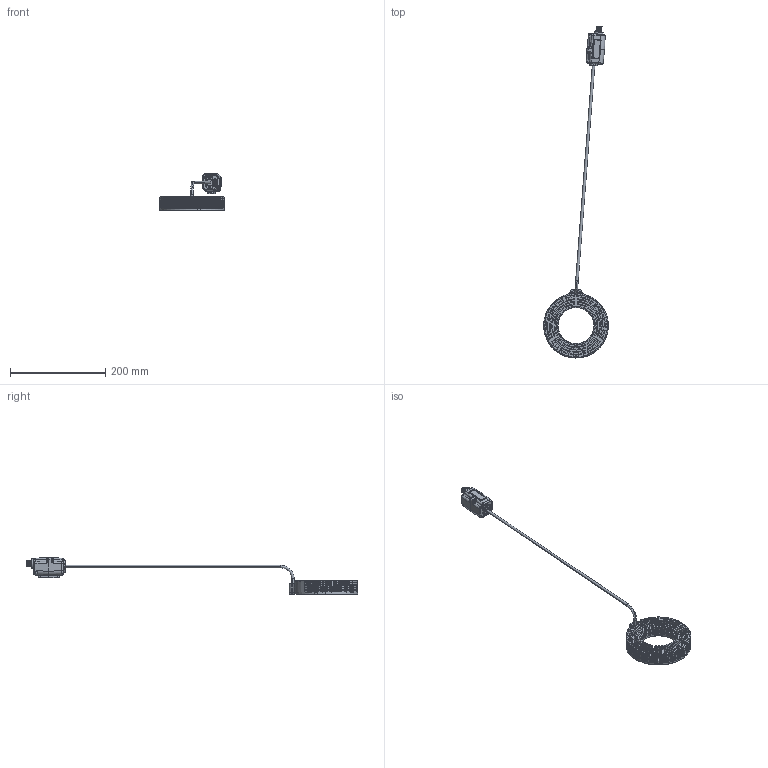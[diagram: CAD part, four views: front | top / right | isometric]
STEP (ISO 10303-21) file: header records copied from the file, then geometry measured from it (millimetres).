
FILE_DESCRIPTION (( 'STEP AP214' ), '1' );
FILE_NAME ('M-HPRING-xxx-NL-DO.STEP', '2024-09-11T14:28:12', ( '' ), ( '' ), 'SwSTEP 2.0', 'SolidWorks 2021', '' );
FILE_SCHEMA (( 'AUTOMOTIVE_DESIGN' ));
Length unit declared in the file: millimetre
Products named in the file (4): Cable; M-HPRING-xxx-NL-DO; PSU - Customer CAD
Assembly tree (3 placements, depth 2):
  M-HPRING-xxx-NL-DO
    M-HPRING-xxx-NL-DO
    PSU - Customer CAD
    Cable
Bounding box: 136 x 698.13 x 77.53 mm (x, y, z)
Volume: 315004.4 mm3; surface area: 106427.9 mm2
Topology: 3 solids, 6 shells, 1779 faces, 4474 edges, 2803 vertices
Faces by surface type: cylinder 695, plane 672, bspline 349, cone 61, torus 2
Entity records: 64023 total; most frequent: CARTESIAN_POINT 23209, ORIENTED_EDGE 8910, DIRECTION 8134, EDGE_CURVE 4455, AXIS2_PLACEMENT_3D 3008, VERTEX_POINT 2803, LINE 2118, VECTOR 2118
